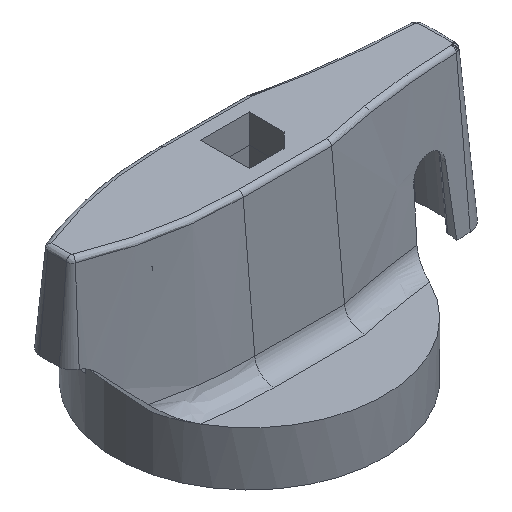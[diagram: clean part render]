
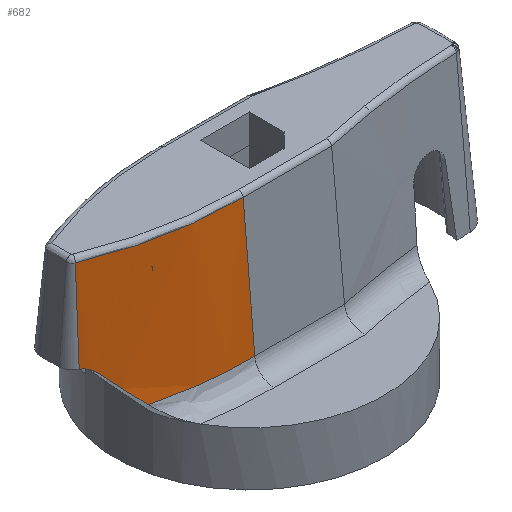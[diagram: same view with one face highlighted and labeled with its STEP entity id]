
A CAD part, isometric view. The second image highlights one B-rep face of the part: STEP entity #682.
In plain terms, the highlighted free-form (B-spline) face has degree [1, 3] with [2, 9] control points.
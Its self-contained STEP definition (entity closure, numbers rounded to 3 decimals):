
#109 = B_SPLINE_CURVE_WITH_KNOTS ( 'NONE', 3,
 ( #1988, #1475, #3013, #1456, #4966, #4010, #1434 ),
 .UNSPECIFIED., .F., .F.,
 ( 4, 3, 4 ),
 ( 0., 0.008, 0.014 ),
 .UNSPECIFIED. ) ;
#134 = CARTESIAN_POINT ( 'NONE',  ( -15.348, -4.527, 5.558 ) ) ;
#162 = CARTESIAN_POINT ( 'NONE',  ( -17.831, -3.774, 5.558 ) ) ;
#260 = CARTESIAN_POINT ( 'NONE',  ( -13.285, -4.795, 7.426 ) ) ;
#463 = CARTESIAN_POINT ( 'NONE',  ( -17.31, -2.442, 21.144 ) ) ;
#470 = CARTESIAN_POINT ( 'NONE',  ( -19.099, -2.641, 11.806 ) ) ;
#624 = CARTESIAN_POINT ( 'NONE',  ( -19.543, -1.234, 24.842 ) ) ;
#682 = ADVANCED_FACE ( 'NONE', ( #4873 ), #6111, .F. ) ;
#742 = CARTESIAN_POINT ( 'NONE',  ( -19.721, -1.708, 19.054 ) ) ;
#841 = ORIENTED_EDGE ( 'NONE', *, *, #4236, .T. ) ;
#861 = B_SPLINE_CURVE_WITH_KNOTS ( 'NONE', 3,
 ( #5226, #2747, #1214, #5125, #742, #4733, #5699, #6205, #3239, #2234 ),
 .UNSPECIFIED., .F., .F.,
 ( 4, 3, 3, 4 ),
 ( 0., 0.001, 0.005, 0.01 ),
 .UNSPECIFIED. ) ;
#1111 = CARTESIAN_POINT ( 'NONE',  ( -4.873, -4.037, 24.842 ) ) ;
#1214 = CARTESIAN_POINT ( 'NONE',  ( -19.662, -1.575, 20.72 ) ) ;
#1276 = CARTESIAN_POINT ( 'NONE',  ( -5.004, -5.563, 7.426 ) ) ;
#1434 = CARTESIAN_POINT ( 'NONE',  ( -5.004, -5.563, 7.426 ) ) ;
#1456 = CARTESIAN_POINT ( 'NONE',  ( -5.008, -5.023, 13.6 ) ) ;
#1475 = CARTESIAN_POINT ( 'NONE',  ( -5.01, -4.583, 18.629 ) ) ;
#1626 = CARTESIAN_POINT ( 'NONE',  ( -4.846, -5.724, 5.558 ) ) ;
#1768 = ORIENTED_EDGE ( 'NONE', *, *, #4968, .T. ) ;
#1802 = CARTESIAN_POINT ( 'NONE',  ( -8.333, -5.467, 7.426 ) ) ;
#1875 = ORIENTED_EDGE ( 'NONE', *, *, #6455, .T. ) ;
#1892 = CARTESIAN_POINT ( 'NONE',  ( -19.964, -2.267, 12.094 ) ) ;
#1949 = CARTESIAN_POINT ( 'NONE',  ( -14.918, -3.161, 21.144 ) ) ;
#1988 = CARTESIAN_POINT ( 'NONE',  ( -5.012, -4.363, 21.144 ) ) ;
#2127 = CARTESIAN_POINT ( 'NONE',  ( -10.036, -3.842, 24.842 ) ) ;
#2140 = CARTESIAN_POINT ( 'NONE',  ( -14.901, -4.383, 7.426 ) ) ;
#2234 = CARTESIAN_POINT ( 'NONE',  ( -19.964, -2.267, 12.094 ) ) ;
#2276 = CARTESIAN_POINT ( 'NONE',  ( -18.743, -2.805, 11.501 ) ) ;
#2302 = EDGE_CURVE ( 'NONE', #6071, #6225, #861, .T. ) ;
#2445 = CARTESIAN_POINT ( 'NONE',  ( -18.824, -2.766, 11.589 ) ) ;
#2584 = VERTEX_POINT ( 'NONE', #3113 ) ;
#2671 = CARTESIAN_POINT ( 'NONE',  ( -14.913, -2.893, 24.842 ) ) ;
#2693 = CARTESIAN_POINT ( 'NONE',  ( -17.287, -2.172, 24.842 ) ) ;
#2734 = CARTESIAN_POINT ( 'NONE',  ( -18.743, -2.805, 11.501 ) ) ;
#2747 = CARTESIAN_POINT ( 'NONE',  ( -19.655, -1.558, 20.932 ) ) ;
#2830 = CARTESIAN_POINT ( 'NONE',  ( -11.644, -5.1, 7.426 ) ) ;
#3013 = CARTESIAN_POINT ( 'NONE',  ( -5.009, -4.803, 16.115 ) ) ;
#3113 = CARTESIAN_POINT ( 'NONE',  ( -5.004, -5.563, 7.426 ) ) ;
#3129 = VERTEX_POINT ( 'NONE', #2140 ) ;
#3161 = CARTESIAN_POINT ( 'NONE',  ( -20.191, -2.792, 5.558 ) ) ;
#3206 = CARTESIAN_POINT ( 'NONE',  ( -5.024, -4.039, 24.842 ) ) ;
#3239 = CARTESIAN_POINT ( 'NONE',  ( -19.917, -2.158, 13.444 ) ) ;
#3492 = CARTESIAN_POINT ( 'NONE',  ( -5.012, -4.363, 21.144 ) ) ;
#3541 = CARTESIAN_POINT ( 'NONE',  ( -13.706, -3.459, 21.144 ) ) ;
#3560 = ORIENTED_EDGE ( 'NONE', *, *, #2302, .T. ) ;
#3653 = CARTESIAN_POINT ( 'NONE',  ( -10.245, -5.52, 5.558 ) ) ;
#3678 = CARTESIAN_POINT ( 'NONE',  ( -7.53, -4.07, 24.842 ) ) ;
#3771 = CARTESIAN_POINT ( 'NONE',  ( -6.67, -5.556, 7.426 ) ) ;
#3789 = CARTESIAN_POINT ( 'NONE',  ( -5.838, -5.573, 7.426 ) ) ;
#3824 = CARTESIAN_POINT ( 'NONE',  ( -9.164, -5.396, 7.426 ) ) ;
#3897 = CARTESIAN_POINT ( 'NONE',  ( -19.201, -2.596, 11.866 ) ) ;
#3936 = CARTESIAN_POINT ( 'NONE',  ( -19.734, -2.364, 12.075 ) ) ;
#4010 = CARTESIAN_POINT ( 'NONE',  ( -5.005, -5.383, 9.484 ) ) ;
#4134 = CARTESIAN_POINT ( 'NONE',  ( -4.923, -4.038, 24.842 ) ) ;
#4178 = CARTESIAN_POINT ( 'NONE',  ( -16.216, -3.926, 8.776 ) ) ;
#4198 = CARTESIAN_POINT ( 'NONE',  ( -17.495, -3.4, 10.136 ) ) ;
#4236 = EDGE_CURVE ( 'NONE', #3129, #2584, #5196, .T. ) ;
#4246 = CARTESIAN_POINT ( 'NONE',  ( -14.901, -4.383, 7.426 ) ) ;
#4375 = VERTEX_POINT ( 'NONE', #5877 ) ;
#4495 = CARTESIAN_POINT ( 'NONE',  ( -18.491, -2.021, 21.144 ) ) ;
#4566 = CARTESIAN_POINT ( 'NONE',  ( -10.02, -4.17, 21.144 ) ) ;
#4666 = VERTEX_POINT ( 'NONE', #2276 ) ;
#4733 = CARTESIAN_POINT ( 'NONE',  ( -19.772, -1.825, 17.6 ) ) ;
#4738 = B_SPLINE_CURVE_WITH_KNOTS ( 'NONE', 3,
 ( #1892, #3936, #5423, #3897, #470, #4940, #2445, #6403 ),
 .UNSPECIFIED., .F., .F.,
 ( 4, 2, 2, 4 ),
 ( 0., 0.001, 0.001, 0.001 ),
 .UNSPECIFIED. ) ;
#4873 = FACE_OUTER_BOUND ( 'NONE', #4973, .T. ) ;
#4936 = ORIENTED_EDGE ( 'NONE', *, *, #5124, .F. ) ;
#4940 = CARTESIAN_POINT ( 'NONE',  ( -18.911, -2.726, 11.668 ) ) ;
#4966 = CARTESIAN_POINT ( 'NONE',  ( -5.006, -5.203, 11.542 ) ) ;
#4968 = EDGE_CURVE ( 'NONE', #4666, #3129, #5055, .T. ) ;
#4973 = EDGE_LOOP ( 'NONE', ( #4936, #1875, #3560, #5403, #1768, #841 ) ) ;
#5000 = CARTESIAN_POINT ( 'NONE',  ( -19.647, -1.541, 21.144 ) ) ;
#5035 = CARTESIAN_POINT ( 'NONE',  ( -19.647, -1.541, 21.144 ) ) ;
#5055 = B_SPLINE_CURVE_WITH_KNOTS ( 'NONE', 3,
 ( #2734, #4198, #4178, #4246 ),
 .UNSPECIFIED., .F., .F.,
 ( 4, 4 ),
 ( 0., 0.006 ),
 .UNSPECIFIED. ) ;
#5118 = CARTESIAN_POINT ( 'NONE',  ( -4.973, -4.038, 24.842 ) ) ;
#5124 = EDGE_CURVE ( 'NONE', #4375, #2584, #109, .T. ) ;
#5125 = CARTESIAN_POINT ( 'NONE',  ( -19.67, -1.592, 20.509 ) ) ;
#5148 = CARTESIAN_POINT ( 'NONE',  ( -5.003, -5.726, 5.558 ) ) ;
#5196 = B_SPLINE_CURVE_WITH_KNOTS ( 'NONE', 3,
 ( #5797, #260, #2830, #3824, #1802, #3771, #3789, #1276 ),
 .UNSPECIFIED., .F., .F.,
 ( 4, 2, 2, 4 ),
 ( 0., 0.005, 0.007, 0.01 ),
 .UNSPECIFIED. ) ;
#5226 = CARTESIAN_POINT ( 'NONE',  ( -19.647, -1.541, 21.144 ) ) ;
#5303 = EDGE_CURVE ( 'NONE', #6225, #4666, #4738, .T. ) ;
#5323 = CARTESIAN_POINT ( 'NONE',  ( -19.964, -2.267, 12.094 ) ) ;
#5403 = ORIENTED_EDGE ( 'NONE', *, *, #5303, .T. ) ;
#5423 = CARTESIAN_POINT ( 'NONE',  ( -19.514, -2.459, 12.016 ) ) ;
#5618 = CARTESIAN_POINT ( 'NONE',  ( -7.624, -5.758, 5.558 ) ) ;
#5641 = CARTESIAN_POINT ( 'NONE',  ( -4.898, -5.725, 5.558 ) ) ;
#5699 = CARTESIAN_POINT ( 'NONE',  ( -19.823, -1.941, 16.145 ) ) ;
#5797 = CARTESIAN_POINT ( 'NONE',  ( -14.901, -4.383, 7.426 ) ) ;
#5877 = CARTESIAN_POINT ( 'NONE',  ( -5.012, -4.363, 21.144 ) ) ;
#6027 = CARTESIAN_POINT ( 'NONE',  ( -7.516, -4.393, 21.144 ) ) ;
#6071 = VERTEX_POINT ( 'NONE', #5000 ) ;
#6111 = B_SPLINE_SURFACE_WITH_KNOTS ( 'NONE', 1, 3, ( 
 ( #3161, #162, #134, #3653, #5618, #5148, #6148, #5641, #1626 ),
 ( #624, #2693, #2671, #2127, #3678, #3206, #5118, #4134, #1111 ) ),
 .UNSPECIFIED., .F., .F., .F.,
 ( 2, 2 ),
 ( 4, 2, 3, 4 ),
 ( 0., 1. ),
 ( 0., 0.5, 1., 1.01 ),
 .UNSPECIFIED. ) ;
#6148 = CARTESIAN_POINT ( 'NONE',  ( -4.951, -5.726, 5.558 ) ) ;
#6205 = CARTESIAN_POINT ( 'NONE',  ( -19.87, -2.05, 14.794 ) ) ;
#6225 = VERTEX_POINT ( 'NONE', #5323 ) ;
#6276 = B_SPLINE_CURVE_WITH_KNOTS ( 'NONE', 3,
 ( #3492, #6027, #4566, #3541, #1949, #463, #4495, #5035 ),
 .UNSPECIFIED., .F., .F.,
 ( 4, 2, 2, 4 ),
 ( 0., 0.008, 0.011, 0.015 ),
 .UNSPECIFIED. ) ;
#6403 = CARTESIAN_POINT ( 'NONE',  ( -18.743, -2.805, 11.501 ) ) ;
#6455 = EDGE_CURVE ( 'NONE', #4375, #6071, #6276, .T. ) ;
